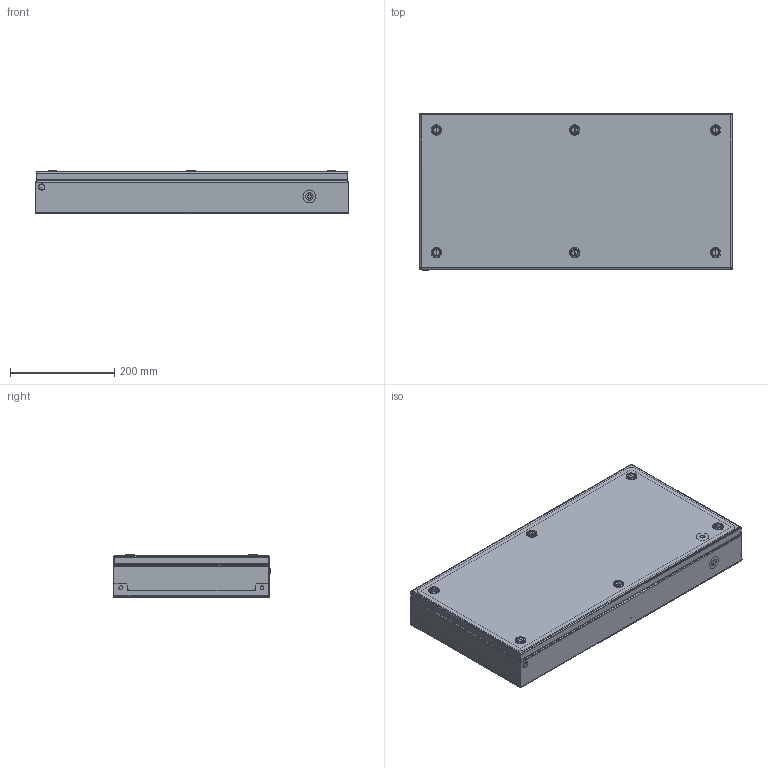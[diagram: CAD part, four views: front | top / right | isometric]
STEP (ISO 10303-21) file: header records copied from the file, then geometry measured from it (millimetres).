
FILE_DESCRIPTION (( 'STEP AP214' ), '1' );
FILE_NAME ('BCS 30.60.08 Êîðîáêà.STEP', '2022-09-13T12:20:27', ( '' ), ( '' ), 'SwSTEP 2.0', 'SolidWorks 2019', '' );
FILE_SCHEMA (( 'AUTOMOTIVE_DESIGN' ));
Length unit declared in the file: millimetre
Products named in the file (1): BCS 30.60.08 Êîðîáêà
Bounding box: 600 x 302.5 x 83 mm (x, y, z)
Volume: 796268.9 mm3; surface area: 1263106.1 mm2
Topology: 48 solids, 48 shells, 2462 faces, 6025 edges, 3765 vertices
Faces by surface type: plane 1565, cylinder 568, cone 152, bspline 97, torus 67, sphere 13
Full cylindrical faces by diameter (mm): 3.2 x78, 7 x6, 9 x4, 9.3 x1, 10 x1, 12 x1, 14 x1, 24 x1, 24.8 x1
Entity records: 114227 total; most frequent: CARTESIAN_POINT 29646, ORIENTED_EDGE 11798, DIRECTION 11219, EDGE_CURVE 5899, VECTOR 3933, LINE 3933, VERTEX_POINT 3761, AXIS2_PLACEMENT_3D 3643
